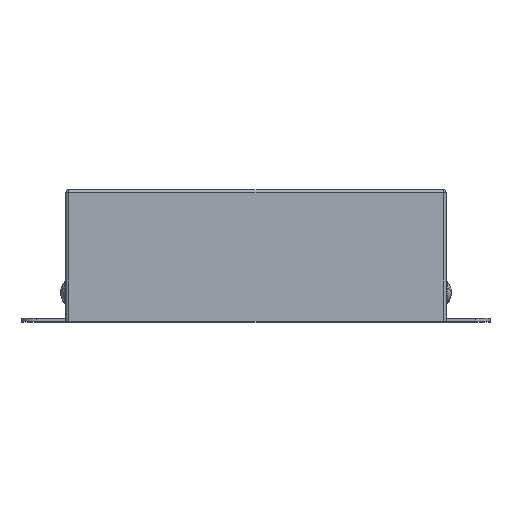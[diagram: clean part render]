
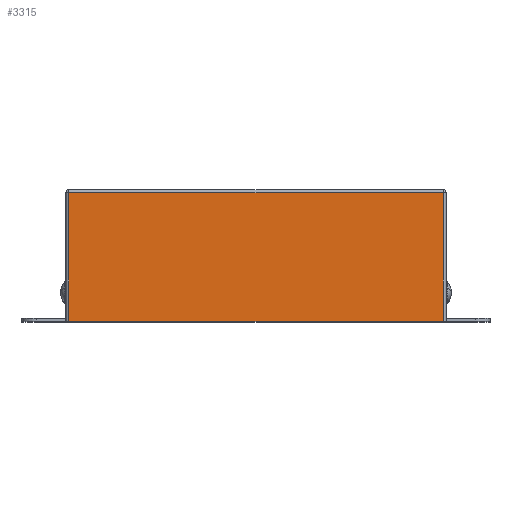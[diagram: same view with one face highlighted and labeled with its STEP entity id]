
A CAD part, top view. The second image highlights one B-rep face of the part: STEP entity #3315.
In plain terms, the highlighted planar face has unit normal (0, 0, 1).
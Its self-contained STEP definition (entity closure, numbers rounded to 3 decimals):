
#7 = VERTEX_POINT ( 'NONE', #1035 ) ;
#144 = VECTOR ( 'NONE', #2593, 1000. ) ;
#198 = ORIENTED_EDGE ( 'NONE', *, *, #1217, .T. ) ;
#235 = VECTOR ( 'NONE', #3440, 1000. ) ;
#245 = CARTESIAN_POINT ( 'NONE',  ( -64., 0., 115. ) ) ;
#428 = DIRECTION ( 'NONE',  ( 0., 0., 1. ) ) ;
#442 = AXIS2_PLACEMENT_3D ( 'NONE', #2994, #428, #1568 ) ;
#481 = EDGE_CURVE ( 'NONE', #1658, #7, #2189, .T. ) ;
#631 = CARTESIAN_POINT ( 'NONE',  ( -65., 0., 115. ) ) ;
#713 = CARTESIAN_POINT ( 'NONE',  ( -64., 44., 115. ) ) ;
#750 = CARTESIAN_POINT ( 'NONE',  ( 64., 45., 115. ) ) ;
#907 = CARTESIAN_POINT ( 'NONE',  ( -65., 44., 115. ) ) ;
#1035 = CARTESIAN_POINT ( 'NONE',  ( 64., 44., 115. ) ) ;
#1198 = VERTEX_POINT ( 'NONE', #245 ) ;
#1217 = EDGE_CURVE ( 'NONE', #1432, #1198, #2816, .T. ) ;
#1269 = ORIENTED_EDGE ( 'NONE', *, *, #481, .T. ) ;
#1432 = VERTEX_POINT ( 'NONE', #713 ) ;
#1455 = LINE ( 'NONE', #907, #235 ) ;
#1563 = VECTOR ( 'NONE', #2278, 1000. ) ;
#1568 = DIRECTION ( 'NONE',  ( 1., 0., 0. ) ) ;
#1658 = VERTEX_POINT ( 'NONE', #3324 ) ;
#1893 = DIRECTION ( 'NONE',  ( 0., 1., 0. ) ) ;
#2051 = LINE ( 'NONE', #631, #144 ) ;
#2111 = PLANE ( 'NONE',  #442 ) ;
#2189 = LINE ( 'NONE', #750, #2554 ) ;
#2278 = DIRECTION ( 'NONE',  ( 0., -1., 0. ) ) ;
#2554 = VECTOR ( 'NONE', #1893, 1000. ) ;
#2582 = EDGE_CURVE ( 'NONE', #7, #1432, #1455, .T. ) ;
#2593 = DIRECTION ( 'NONE',  ( -1., 0., 0. ) ) ;
#2746 = FACE_OUTER_BOUND ( 'NONE', #3457, .T. ) ;
#2816 = LINE ( 'NONE', #3153, #1563 ) ;
#2885 = ORIENTED_EDGE ( 'NONE', *, *, #3499, .F. ) ;
#2889 = ORIENTED_EDGE ( 'NONE', *, *, #2582, .T. ) ;
#2994 = CARTESIAN_POINT ( 'NONE',  ( -65., 45., 115. ) ) ;
#3153 = CARTESIAN_POINT ( 'NONE',  ( -64., 45., 115. ) ) ;
#3315 = ADVANCED_FACE ( 'NONE', ( #2746 ), #2111, .T. ) ;
#3324 = CARTESIAN_POINT ( 'NONE',  ( 64., 0., 115. ) ) ;
#3440 = DIRECTION ( 'NONE',  ( -1., 0., 0. ) ) ;
#3457 = EDGE_LOOP ( 'NONE', ( #2885, #1269, #2889, #198 ) ) ;
#3499 = EDGE_CURVE ( 'NONE', #1658, #1198, #2051, .T. ) ;
